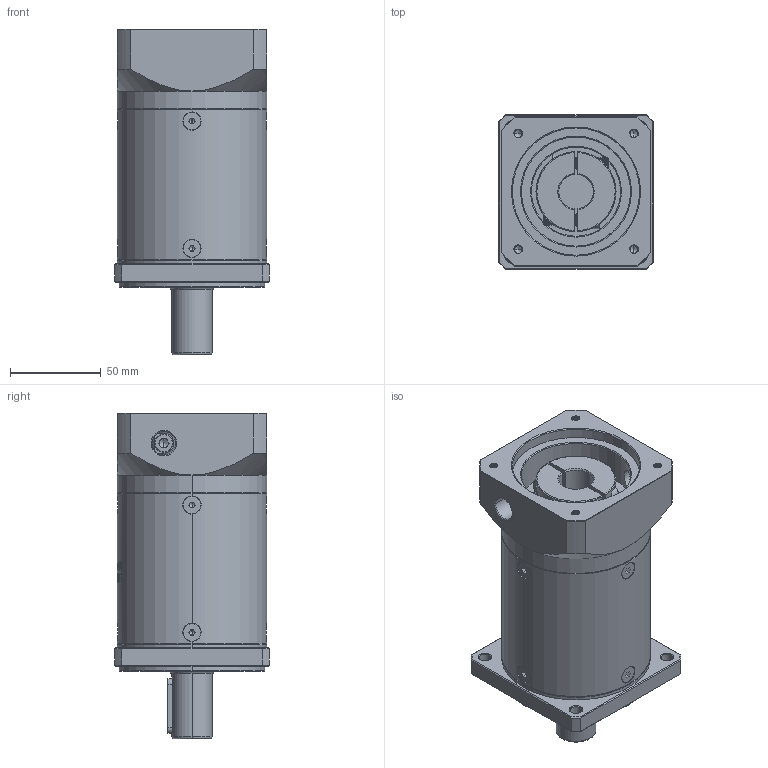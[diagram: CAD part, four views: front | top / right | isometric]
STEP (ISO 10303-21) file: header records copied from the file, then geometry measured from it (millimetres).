
FILE_DESCRIPTION (( 'STEP AP214' ), '1' );
FILE_NAME ('ZF080-D22-L3-P2-19-70-90-M5.step', '2023-08-19T05:33:43', ( '' ), ( '' ), 'SwSTEP 2.0', 'SolidWorks 2016', '' );
FILE_SCHEMA (( 'AUTOMOTIVE_DESIGN' ));
Length unit declared in the file: millimetre
Products named in the file (1): ZF080-D22-L3-P2-19-70-90-M5
Bounding box: 85 x 85 x 179 mm (x, y, z)
Volume: 740535.4 mm3; surface area: 96049.7 mm2
Topology: 13 solids, 13 shells, 2224 faces, 5832 edges, 3706 vertices
Faces by surface type: plane 1066, bspline 394, cylinder 390, cone 337, torus 37
Entity records: 119029 total; most frequent: CARTESIAN_POINT 44830, ORIENTED_EDGE 11604, DIRECTION 8600, EDGE_CURVE 5802, VERTEX_POINT 3706, VECTOR 3078, LINE 3078, AXIS2_PLACEMENT_3D 2761
